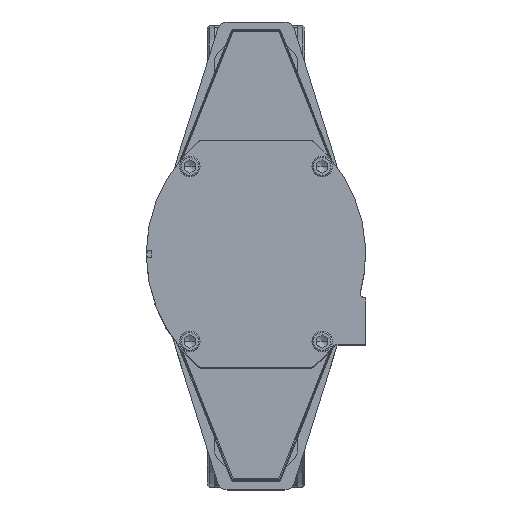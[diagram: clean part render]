
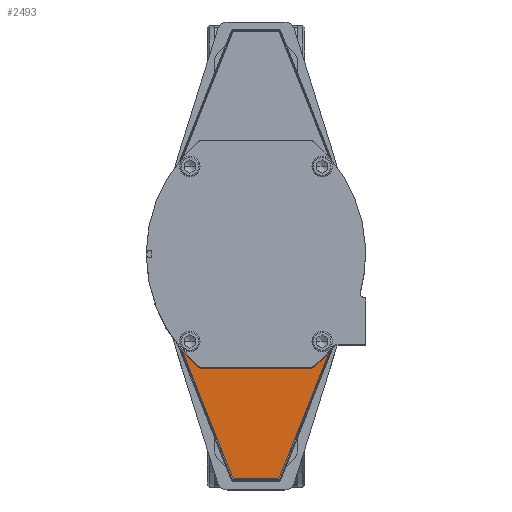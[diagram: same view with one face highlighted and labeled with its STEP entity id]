
A CAD part, top view. The second image highlights one B-rep face of the part: STEP entity #2493.
In plain terms, the highlighted planar face has unit normal (0, 0, 1).
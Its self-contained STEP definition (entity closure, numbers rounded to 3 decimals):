
#2493=ADVANCED_FACE('',(#7499),#7500,.F.);
#7499=FACE_OUTER_BOUND('',#14148,.T.);
#7500=PLANE('',#14149);
#14148=EDGE_LOOP('',(#33043,#33044,#33045,#33046,#33047,#33048));
#14149=AXIS2_PLACEMENT_3D('',#33049,#33050,#33051);
#33043=ORIENTED_EDGE('',*,*,#41503,.T.);
#33044=ORIENTED_EDGE('',*,*,#41507,.T.);
#33045=ORIENTED_EDGE('',*,*,#41508,.T.);
#33046=ORIENTED_EDGE('',*,*,#41509,.T.);
#33047=ORIENTED_EDGE('',*,*,#41510,.T.);
#33048=ORIENTED_EDGE('',*,*,#41511,.F.);
#33049=CARTESIAN_POINT('',(51.984,-161.338,936.55));
#33050=DIRECTION('',(0.,0.,-1.));
#33051=DIRECTION('',(0.,1.,0.));
#41503=EDGE_CURVE('',#52081,#52082,#52083,.T.);
#41507=EDGE_CURVE('',#52082,#52089,#52090,.T.);
#41508=EDGE_CURVE('',#52089,#52091,#52092,.T.);
#41509=EDGE_CURVE('',#52091,#52093,#52094,.T.);
#41510=EDGE_CURVE('',#52093,#52095,#52096,.T.);
#41511=EDGE_CURVE('',#52081,#52095,#52097,.T.);
#52081=VERTEX_POINT('',#71573);
#52082=VERTEX_POINT('',#71574);
#52083=LINE('',#71575,#71576);
#52089=VERTEX_POINT('',#71585);
#52090=LINE('',#71586,#71587);
#52091=VERTEX_POINT('',#71588);
#52092=LINE('',#71589,#71590);
#52093=VERTEX_POINT('',#71591);
#52094=LINE('',#71592,#71593);
#52095=VERTEX_POINT('',#71594);
#52096=LINE('',#71595,#71596);
#52097=LINE('',#71597,#71598);
#71573=CARTESIAN_POINT('',(-80.,-91.809,936.55));
#71574=CARTESIAN_POINT('',(-23.968,-233.313,936.55));
#71575=CARTESIAN_POINT('',(-45.389,-179.215,936.55));
#71576=VECTOR('',#83448,10.);
#71585=CARTESIAN_POINT('',(23.968,-233.313,936.55));
#71586=CARTESIAN_POINT('',(80.,-233.313,936.55));
#71587=VECTOR('',#83452,10.);
#71588=CARTESIAN_POINT('',(80.,-91.809,936.55));
#71589=CARTESIAN_POINT('',(52.435,-161.421,936.55));
#71590=VECTOR('',#83453,10.);
#71591=CARTESIAN_POINT('',(80.,-89.363,936.55));
#71592=CARTESIAN_POINT('',(80.,-89.363,936.55));
#71593=VECTOR('',#83454,10.);
#71594=CARTESIAN_POINT('',(-80.,-89.363,936.55));
#71595=CARTESIAN_POINT('',(23.968,-89.363,936.55));
#71596=VECTOR('',#83455,10.);
#71597=CARTESIAN_POINT('',(-80.,-89.363,936.55));
#71598=VECTOR('',#83456,10.);
#83448=DIRECTION('',(0.368,-0.93,0.));
#83452=DIRECTION('',(1.,0.,0.));
#83453=DIRECTION('',(0.368,0.93,0.));
#83454=DIRECTION('',(0.,1.,0.));
#83455=DIRECTION('',(-1.,0.,0.));
#83456=DIRECTION('',(0.,1.,0.));
